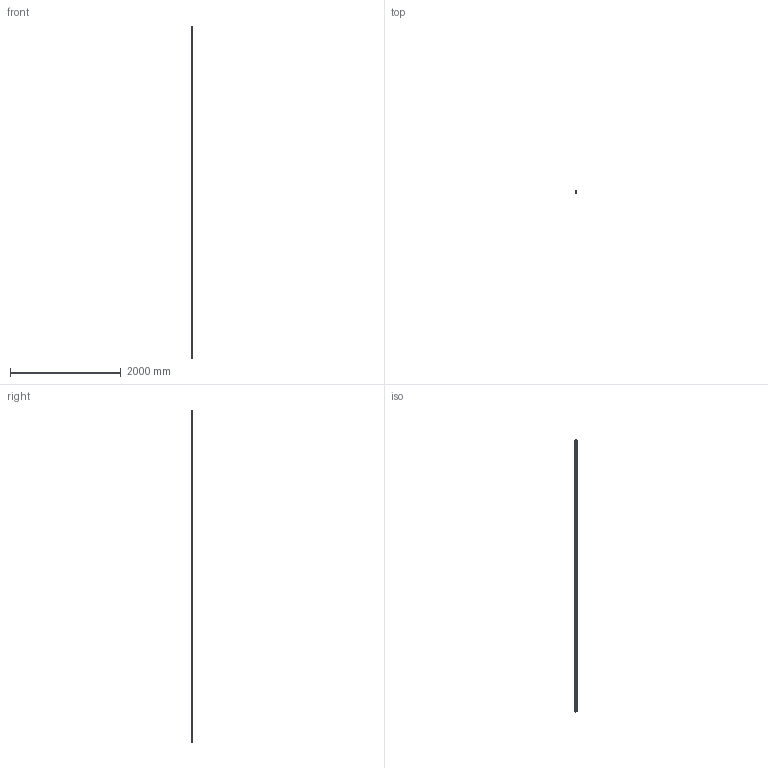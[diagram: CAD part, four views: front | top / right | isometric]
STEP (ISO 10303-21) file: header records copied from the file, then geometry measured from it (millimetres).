
FILE_DESCRIPTION((''),'2;1');
FILE_NAME('ROLLENSCHIENE_C','2021-12-23T05:31:30',('ac91sw'),(''),'CREO PARAMETRIC BY PTC INC, 2020044','CREO PARAMETRIC BY PTC INC, 2020044','');
FILE_SCHEMA(('AUTOMOTIVE_DESIGN { 1 0 10303 214 1 1 1 1 }'));
Length unit declared in the file: millimetre
Products named in the file (3): ROLLENSCHIENE_C_SKEL; ROLLENSCHIENE_C_RAIL1; ROLLENSCHIENE_C
Assembly tree (2 placements, depth 2):
  ROLLENSCHIENE_C
    ROLLENSCHIENE_C_SKEL
    ROLLENSCHIENE_C_RAIL1
Bounding box: 34 x 30.8 x 5996 mm (x, y, z)
Volume: 4505411.9 mm3; surface area: 954975.8 mm2
Topology: 1 solids, 1 shells, 818 faces, 2258 edges, 2038 vertices
Faces by surface type: cylinder 604, plane 210, cone 4
Entity records: 27955 total; most frequent: DIRECTION 5156, CARTESIAN_POINT 4543, ORIENTED_EDGE 3908, AXIS2_PLACEMENT_3D 2055, EDGE_CURVE 1954, VERTEX_POINT 1290, EDGE_LOOP 1270, CIRCLE 1208
